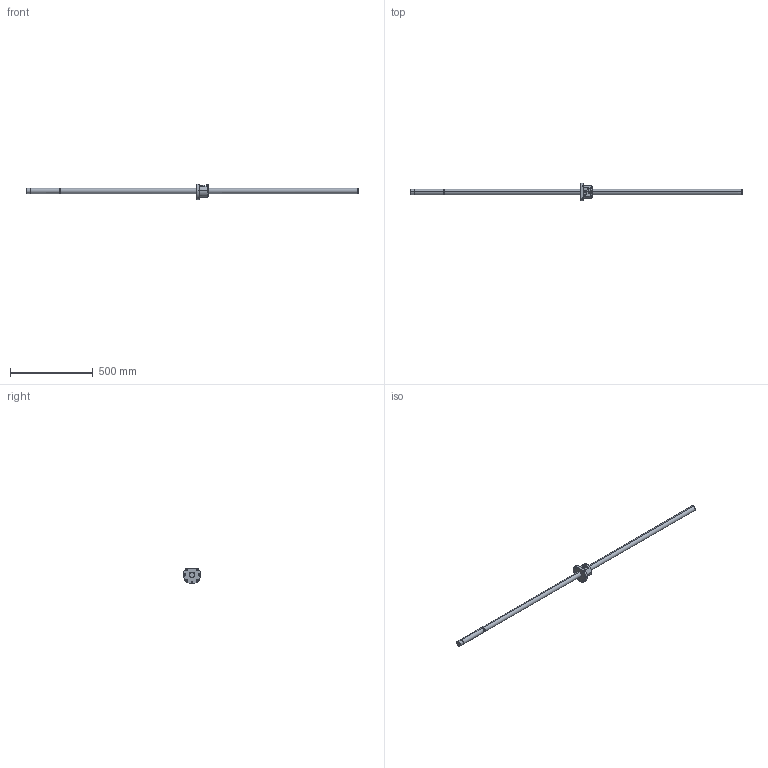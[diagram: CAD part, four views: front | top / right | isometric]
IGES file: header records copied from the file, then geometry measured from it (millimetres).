
Global section: file name: No Iges File Name specified; native system: AutoDesk Inventor R10; preprocessor: AutoDesk Inventor Iges Exporter R10; author: No Author specified; organization: No Organization specified; date: 20101224.142559; units: millimetre
Bounding box: 2000 x 108 x 95 mm (x, y, z)
Surface area: 247206.1 mm2 (no closed solid volume)
Topology: 0 solids, 0 shells, 134 faces, 1008 edges, 1006 vertices
Faces by surface type: bspline 134
